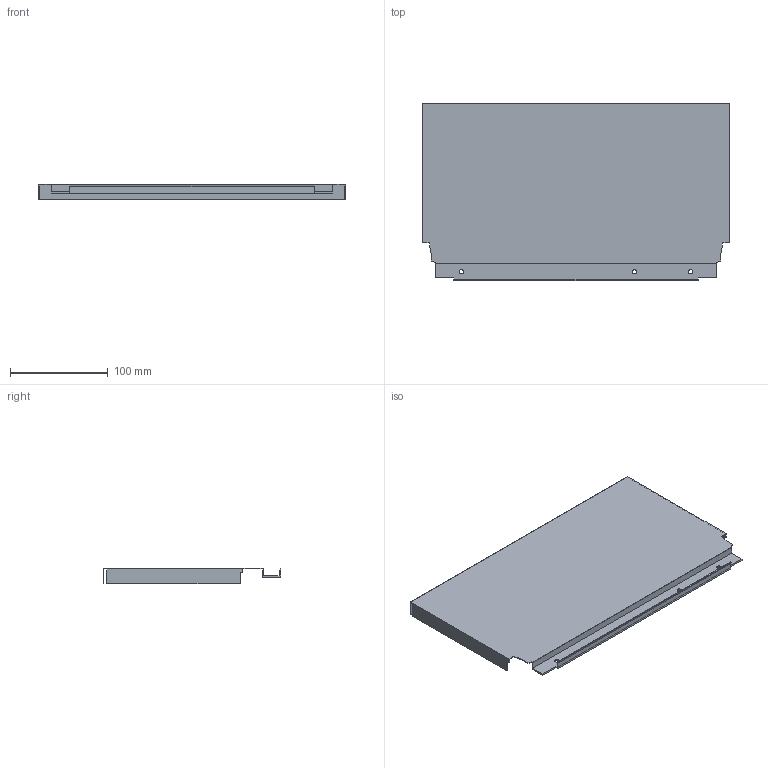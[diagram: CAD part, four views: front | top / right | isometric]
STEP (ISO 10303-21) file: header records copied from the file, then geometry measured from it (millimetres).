
FILE_DESCRIPTION (( 'STEP AP214' ), '1' );
FILE_NAME ('_DWD_XP Stahlrückwand_H182_KAB400_S17.step', '2010-07-08T12:57:42', ( 'grass' ), ( '' ), 'SwSTEP 2.0', 'SolidWorks 2010', '' );
FILE_SCHEMA (( 'AUTOMOTIVE_DESIGN' ));
Length unit declared in the file: millimetre
Products named in the file (1): _DWD_XP Stahlrückwand_H182_KAB400_S17
Bounding box: 315 x 182.49 x 16 mm (x, y, z)
Volume: 60007.1 mm3; surface area: 140063.8 mm2
Topology: 1 solids, 1 shells, 46 faces, 132 edges, 88 vertices
Faces by surface type: plane 40, cylinder 6
Entity records: 1534 total; most frequent: CARTESIAN_POINT 267, ORIENTED_EDGE 264, DIRECTION 238, EDGE_CURVE 132, VECTOR 120, LINE 120, VERTEX_POINT 88, AXIS2_PLACEMENT_3D 59
